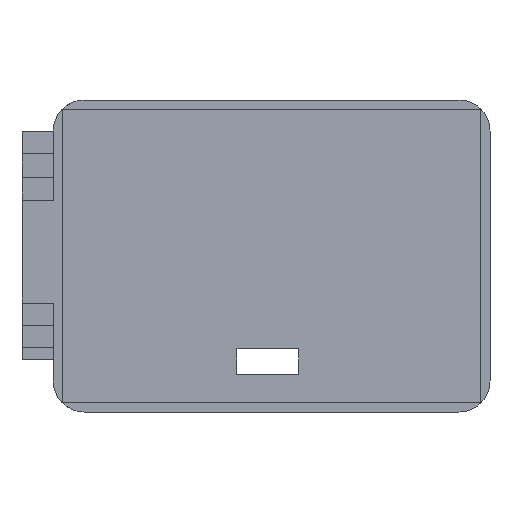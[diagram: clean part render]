
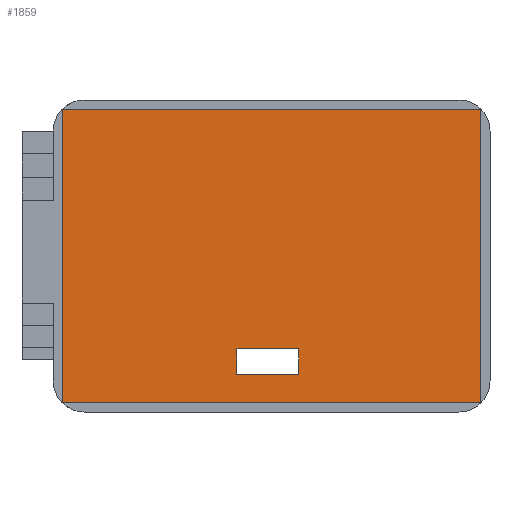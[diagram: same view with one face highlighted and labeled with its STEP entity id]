
A CAD part, front view. The second image highlights one B-rep face of the part: STEP entity #1859.
In plain terms, the highlighted planar face has unit normal (0, -1, 0).
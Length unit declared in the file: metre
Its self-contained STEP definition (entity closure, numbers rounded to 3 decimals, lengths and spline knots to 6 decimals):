
#248=ORIENTED_EDGE('',*,*,#716,.T.);
#249=ORIENTED_EDGE('',*,*,#719,.F.);
#250=ORIENTED_EDGE('',*,*,#721,.F.);
#251=ORIENTED_EDGE('',*,*,#722,.T.);
#252=ORIENTED_EDGE('',*,*,#709,.F.);
#253=ORIENTED_EDGE('',*,*,#712,.T.);
#254=ORIENTED_EDGE('',*,*,#714,.T.);
#255=ORIENTED_EDGE('',*,*,#690,.F.);
#690=EDGE_CURVE('',#945,#946,#1124,.T.);
#709=EDGE_CURVE('',#949,#945,#1131,.T.);
#712=EDGE_CURVE('',#949,#951,#1134,.T.);
#714=EDGE_CURVE('',#951,#946,#1136,.T.);
#716=EDGE_CURVE('',#953,#952,#1138,.T.);
#719=EDGE_CURVE('',#954,#952,#1141,.T.);
#721=EDGE_CURVE('',#955,#954,#1143,.T.);
#722=EDGE_CURVE('',#955,#953,#1144,.T.);
#945=VERTEX_POINT('',#2759);
#946=VERTEX_POINT('',#2761);
#949=VERTEX_POINT('',#2795);
#951=VERTEX_POINT('',#2801);
#952=VERTEX_POINT('',#2808);
#953=VERTEX_POINT('',#2810);
#954=VERTEX_POINT('',#2814);
#955=VERTEX_POINT('',#2818);
#1124=LINE('',#2760,#1374);
#1131=LINE('',#2796,#1381);
#1134=LINE('',#2802,#1384);
#1136=LINE('',#2805,#1386);
#1138=LINE('',#2809,#1388);
#1141=LINE('',#2815,#1391);
#1143=LINE('',#2819,#1393);
#1144=LINE('',#2821,#1394);
#1374=VECTOR('',#2202,1.);
#1381=VECTOR('',#2259,1.);
#1384=VECTOR('',#2264,1.);
#1386=VECTOR('',#2268,1.);
#1388=VECTOR('',#2272,1.);
#1391=VECTOR('',#2277,1.);
#1393=VECTOR('',#2281,1.);
#1394=VECTOR('',#2284,1.);
#1565=EDGE_LOOP('',(#248,#249,#250,#251));
#1566=EDGE_LOOP('',(#252,#253,#254,#255));
#1671=FACE_BOUND('',#1565,.T.);
#1672=FACE_BOUND('',#1566,.T.);
#1760=PLANE('',#1991);
#1859=ADVANCED_FACE('',(#1671,#1672),#1760,.T.);
#1991=AXIS2_PLACEMENT_3D('',#2822,#2285,#2286);
#2202=DIRECTION('',(1.,0.,0.));
#2259=DIRECTION('',(0.,0.,-1.));
#2264=DIRECTION('',(1.,0.,0.));
#2268=DIRECTION('',(0.,0.,-1.));
#2272=DIRECTION('',(1.,0.,0.));
#2277=DIRECTION('',(0.,0.,-1.));
#2281=DIRECTION('',(1.,0.,0.));
#2284=DIRECTION('',(0.,0.,-1.));
#2285=DIRECTION('',(0.,-1.,0.));
#2286=DIRECTION('',(1.,0.,0.));
#2759=CARTESIAN_POINT('',(-0.005545,-0.062,-0.019));
#2760=CARTESIAN_POINT('',(0.,-0.062,-0.019));
#2761=CARTESIAN_POINT('',(0.004382,-0.062,-0.019));
#2795=CARTESIAN_POINT('',(-0.005545,-0.062,-0.014845));
#2796=CARTESIAN_POINT('',(-0.005545,-0.062,-0.016923));
#2801=CARTESIAN_POINT('',(0.004382,-0.062,-0.014845));
#2802=CARTESIAN_POINT('',(-0.000582,-0.062,-0.014845));
#2805=CARTESIAN_POINT('',(0.004382,-0.062,-0.016923));
#2808=CARTESIAN_POINT('',(0.033536,-0.062,-0.023536));
#2809=CARTESIAN_POINT('',(-0.027643,-0.062,-0.023536));
#2810=CARTESIAN_POINT('',(-0.033536,-0.062,-0.023536));
#2814=CARTESIAN_POINT('',(0.033536,-0.062,0.023536));
#2815=CARTESIAN_POINT('',(0.033536,-0.062,0.));
#2818=CARTESIAN_POINT('',(-0.033536,-0.062,0.023536));
#2819=CARTESIAN_POINT('',(0.,-0.062,0.023536));
#2821=CARTESIAN_POINT('',(-0.033536,-0.062,0.));
#2822=CARTESIAN_POINT('',(0.,-0.062,0.));
